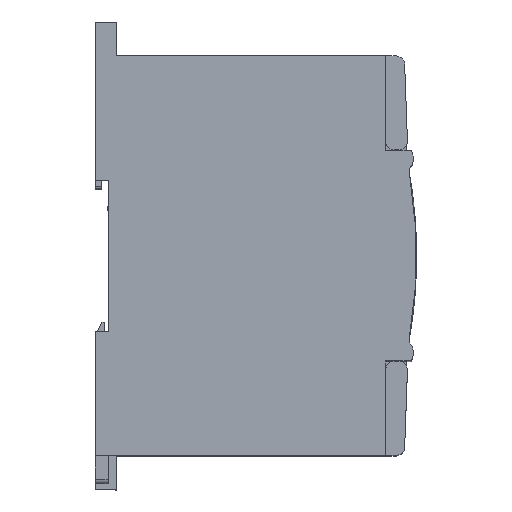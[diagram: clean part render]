
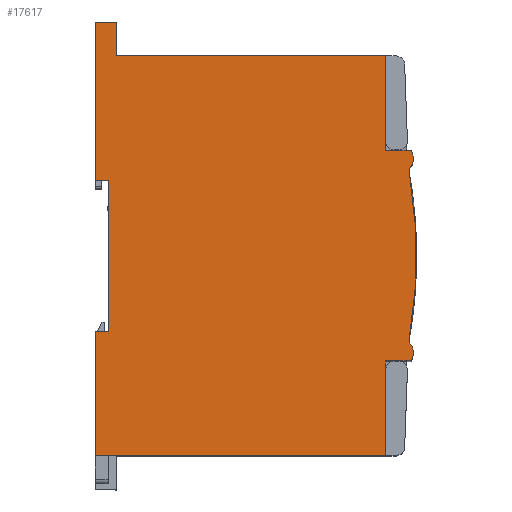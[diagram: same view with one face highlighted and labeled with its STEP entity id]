
A CAD part, top view. The second image highlights one B-rep face of the part: STEP entity #17617.
In plain terms, the highlighted planar face has unit normal (0, 0, 1) as drawn and (-1, 0, 0) by its records, which use the part's own axes.
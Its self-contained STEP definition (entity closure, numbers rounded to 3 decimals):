
#1811 = CARTESIAN_POINT ( 'NONE',  ( 0., 22.2, -1.268 ) ) ;
#2194 = ORIENTED_EDGE ( 'NONE', *, *, #73508, .F. ) ;
#4166 = DIRECTION ( 'NONE',  ( 0., 0., -1. ) ) ;
#4867 = CARTESIAN_POINT ( 'NONE',  ( 0., 71.8, -7.268 ) ) ;
#4956 = CARTESIAN_POINT ( 'NONE',  ( 0., 94., -7.268 ) ) ;
#5003 = EDGE_CURVE ( 'NONE', #57239, #47417, #23582, .T. ) ;
#5285 = CARTESIAN_POINT ( 'NONE',  ( 0., 94., -70.6 ) ) ;
#5921 = AXIS2_PLACEMENT_3D ( 'NONE', #69042, #29101, #75750 ) ;
#6233 = CARTESIAN_POINT ( 'NONE',  ( 0., 64.75, -72.4 ) ) ;
#6377 = ORIENTED_EDGE ( 'NONE', *, *, #79755, .F. ) ;
#6775 = VECTOR ( 'NONE', #39055, 1000. ) ;
#6783 = VECTOR ( 'NONE', #24551, 1000. ) ;
#7563 = CARTESIAN_POINT ( 'NONE',  ( 0., 47., -112.688 ) ) ;
#8536 = DIRECTION ( 'NONE',  ( 0., 0., -1. ) ) ;
#8893 = LINE ( 'NONE', #78508, #6783 ) ;
#8986 = LINE ( 'NONE', #41950, #24650 ) ;
#9185 = ORIENTED_EDGE ( 'NONE', *, *, #79996, .F. ) ;
#9543 = CARTESIAN_POINT ( 'NONE',  ( 0., 26.494, -1.694 ) ) ;
#10987 = DIRECTION ( 'NONE',  ( 0., 1., 0. ) ) ;
#11070 = VECTOR ( 'NONE', #8536, 1000. ) ;
#11338 = LINE ( 'NONE', #25060, #55227 ) ;
#12069 = ORIENTED_EDGE ( 'NONE', *, *, #59833, .T. ) ;
#12520 = LINE ( 'NONE', #36776, #48037 ) ;
#12592 = VECTOR ( 'NONE', #77888, 1000. ) ;
#13143 = ORIENTED_EDGE ( 'NONE', *, *, #22532, .F. ) ;
#13792 = ORIENTED_EDGE ( 'NONE', *, *, #68645, .F. ) ;
#14229 = VERTEX_POINT ( 'NONE', #16382 ) ;
#14280 = DIRECTION ( 'NONE',  ( 0., 0., -1. ) ) ;
#14565 = VERTEX_POINT ( 'NONE', #46641 ) ;
#14815 = CARTESIAN_POINT ( 'NONE',  ( 0., 102., -75.6 ) ) ;
#15282 = LINE ( 'NONE', #1811, #11070 ) ;
#16382 = CARTESIAN_POINT ( 'NONE',  ( 0., 29.25, -72.4 ) ) ;
#16511 = VECTOR ( 'NONE', #59135, 1000. ) ;
#16958 = VECTOR ( 'NONE', #82545, 1000. ) ;
#17232 = VERTEX_POINT ( 'NONE', #25882 ) ;
#17617 = ADVANCED_FACE ( 'NONE', ( #36982 ), #84148, .F. ) ;
#18154 = EDGE_CURVE ( 'NONE', #14229, #24961, #64995, .T. ) ;
#20250 = VECTOR ( 'NONE', #84693, 1000. ) ;
#20618 = AXIS2_PLACEMENT_3D ( 'NONE', #27303, #73983, #34057 ) ;
#20668 = CARTESIAN_POINT ( 'NONE',  ( 0., 64.75, -75.6 ) ) ;
#21897 = EDGE_CURVE ( 'NONE', #24961, #58553, #55754, .T. ) ;
#22278 = AXIS2_PLACEMENT_3D ( 'NONE', #7563, #54257, #14280 ) ;
#22460 = CARTESIAN_POINT ( 'NONE',  ( 0., 0., -75.6 ) ) ;
#22532 = EDGE_CURVE ( 'NONE', #47417, #33026, #77465, .T. ) ;
#22660 = ORIENTED_EDGE ( 'NONE', *, *, #71718, .F. ) ;
#23582 = LINE ( 'NONE', #4956, #39230 ) ;
#24551 = DIRECTION ( 'NONE',  ( 0., 1., 0. ) ) ;
#24650 = VECTOR ( 'NONE', #48620, 1000. ) ;
#24961 = VERTEX_POINT ( 'NONE', #6233 ) ;
#25060 = CARTESIAN_POINT ( 'NONE',  ( 0., 29.25, -75.6 ) ) ;
#25652 = CARTESIAN_POINT ( 'NONE',  ( 0., 69.955, -1.724 ) ) ;
#25882 = CARTESIAN_POINT ( 'NONE',  ( 0., 22.2, -7.268 ) ) ;
#27303 = CARTESIAN_POINT ( 'NONE',  ( 0., 69.935, -4.323 ) ) ;
#28431 = ORIENTED_EDGE ( 'NONE', *, *, #59474, .F. ) ;
#28878 = DIRECTION ( 'NONE',  ( 0., 1., 0. ) ) ;
#29101 = DIRECTION ( 'NONE',  ( 1., 0., 0. ) ) ;
#29395 = VECTOR ( 'NONE', #28878, 1000. ) ;
#30454 = DIRECTION ( 'NONE',  ( 1., 0., 0. ) ) ;
#33026 = VERTEX_POINT ( 'NONE', #85106 ) ;
#33297 = VERTEX_POINT ( 'NONE', #40435 ) ;
#34057 = DIRECTION ( 'NONE',  ( 0., 0., -1. ) ) ;
#34274 = LINE ( 'NONE', #45673, #16511 ) ;
#34391 = CARTESIAN_POINT ( 'NONE',  ( 0., 22.2, -1.268 ) ) ;
#36127 = VERTEX_POINT ( 'NONE', #34391 ) ;
#36776 = CARTESIAN_POINT ( 'NONE',  ( 0., 29.25, -75.6 ) ) ;
#36970 = EDGE_CURVE ( 'NONE', #14565, #71909, #68827, .T. ) ;
#36982 = FACE_OUTER_BOUND ( 'NONE', #38170, .T. ) ;
#37006 = VERTEX_POINT ( 'NONE', #5285 ) ;
#38120 = CARTESIAN_POINT ( 'NONE',  ( 0., 94., -7.268 ) ) ;
#38170 = EDGE_LOOP ( 'NONE', ( #22660, #44053, #60861, #28431, #6377, #79040, #52372, #39604, #55103, #12069, #9185, #45532, #2194, #13143, #39271, #13792, #65929, #65991 ) ) ;
#39055 = DIRECTION ( 'NONE',  ( 0., 1., -0.008 ) ) ;
#39230 = VECTOR ( 'NONE', #71484, 1000. ) ;
#39271 = ORIENTED_EDGE ( 'NONE', *, *, #5003, .F. ) ;
#39581 = CARTESIAN_POINT ( 'NONE',  ( 0., 66.487, -1.698 ) ) ;
#39604 = ORIENTED_EDGE ( 'NONE', *, *, #75783, .F. ) ;
#40435 = CARTESIAN_POINT ( 'NONE',  ( 0., 67.494, -1.705 ) ) ;
#41057 = EDGE_CURVE ( 'NONE', #80572, #33297, #60058, .T. ) ;
#41316 = EDGE_CURVE ( 'NONE', #45408, #36127, #76140, .T. ) ;
#41950 = CARTESIAN_POINT ( 'NONE',  ( 0., 102., -70.6 ) ) ;
#44053 = ORIENTED_EDGE ( 'NONE', *, *, #21897, .F. ) ;
#45254 = CARTESIAN_POINT ( 'NONE',  ( 0., 0., -75.6 ) ) ;
#45272 = VERTEX_POINT ( 'NONE', #14815 ) ;
#45408 = VERTEX_POINT ( 'NONE', #9543 ) ;
#45532 = ORIENTED_EDGE ( 'NONE', *, *, #41057, .T. ) ;
#45673 = CARTESIAN_POINT ( 'NONE',  ( 0., 69.935, -4.325 ) ) ;
#46024 = LINE ( 'NONE', #70880, #12592 ) ;
#46641 = CARTESIAN_POINT ( 'NONE',  ( 0., 0., -7.268 ) ) ;
#47417 = VERTEX_POINT ( 'NONE', #4867 ) ;
#48037 = VECTOR ( 'NONE', #83447, 1000. ) ;
#48620 = DIRECTION ( 'NONE',  ( 0., 0., -1. ) ) ;
#49242 = VERTEX_POINT ( 'NONE', #56242 ) ;
#49574 = VERTEX_POINT ( 'NONE', #80143 ) ;
#50006 = CARTESIAN_POINT ( 'NONE',  ( 0., 71.8, -75.6 ) ) ;
#50999 = CARTESIAN_POINT ( 'NONE',  ( 0., 27.268, -1.741 ) ) ;
#51083 = VECTOR ( 'NONE', #85251, 1000. ) ;
#52372 = ORIENTED_EDGE ( 'NONE', *, *, #66497, .T. ) ;
#54208 = EDGE_CURVE ( 'NONE', #49574, #45272, #8986, .T. ) ;
#54257 = DIRECTION ( 'NONE',  ( 1., 0., 0. ) ) ;
#55103 = ORIENTED_EDGE ( 'NONE', *, *, #41316, .F. ) ;
#55227 = VECTOR ( 'NONE', #72298, 1000. ) ;
#55754 = LINE ( 'NONE', #70977, #20250 ) ;
#56242 = CARTESIAN_POINT ( 'NONE',  ( 0., 29.25, -75.6 ) ) ;
#56245 = EDGE_CURVE ( 'NONE', #37006, #49574, #85857, .T. ) ;
#56390 = VERTEX_POINT ( 'NONE', #50999 ) ;
#57239 = VERTEX_POINT ( 'NONE', #38120 ) ;
#57434 = CIRCLE ( 'NONE', #20618, 3.579 ) ;
#58553 = VERTEX_POINT ( 'NONE', #20668 ) ;
#59135 = DIRECTION ( 'NONE',  ( 0., 0.998, -0.06 ) ) ;
#59474 = EDGE_CURVE ( 'NONE', #49242, #14229, #11338, .T. ) ;
#59750 = VECTOR ( 'NONE', #76550, 1000. ) ;
#59833 = EDGE_CURVE ( 'NONE', #45408, #56390, #34274, .T. ) ;
#60058 = LINE ( 'NONE', #25652, #6775 ) ;
#60861 = ORIENTED_EDGE ( 'NONE', *, *, #18154, .F. ) ;
#62097 = CARTESIAN_POINT ( 'NONE',  ( 0., 0., -7.268 ) ) ;
#64995 = LINE ( 'NONE', #71088, #78568 ) ;
#65929 = ORIENTED_EDGE ( 'NONE', *, *, #56245, .T. ) ;
#65991 = ORIENTED_EDGE ( 'NONE', *, *, #54208, .T. ) ;
#66497 = EDGE_CURVE ( 'NONE', #14565, #17232, #66995, .T. ) ;
#66995 = LINE ( 'NONE', #62097, #29395 ) ;
#68645 = EDGE_CURVE ( 'NONE', #37006, #57239, #46024, .T. ) ;
#68827 = LINE ( 'NONE', #45254, #51083 ) ;
#69042 = CARTESIAN_POINT ( 'NONE',  ( 0., 24.065, -4.323 ) ) ;
#69094 = CARTESIAN_POINT ( 'NONE',  ( 0., 94., -70.6 ) ) ;
#70880 = CARTESIAN_POINT ( 'NONE',  ( 0., 94., -7.268 ) ) ;
#70977 = CARTESIAN_POINT ( 'NONE',  ( 0., 64.75, -72.4 ) ) ;
#71088 = CARTESIAN_POINT ( 'NONE',  ( 0., 0., -72.4 ) ) ;
#71484 = DIRECTION ( 'NONE',  ( 0., -1., 0. ) ) ;
#71718 = EDGE_CURVE ( 'NONE', #58553, #45272, #8893, .T. ) ;
#71909 = VERTEX_POINT ( 'NONE', #22460 ) ;
#72298 = DIRECTION ( 'NONE',  ( 0., 0., 1. ) ) ;
#73508 = EDGE_CURVE ( 'NONE', #33026, #33297, #57434, .T. ) ;
#73983 = DIRECTION ( 'NONE',  ( 1., 0., 0. ) ) ;
#75750 = DIRECTION ( 'NONE',  ( 0., 0., -1. ) ) ;
#75783 = EDGE_CURVE ( 'NONE', #36127, #17232, #15282, .T. ) ;
#76140 = CIRCLE ( 'NONE', #5921, 3.579 ) ;
#76550 = DIRECTION ( 'NONE',  ( 0., 0., 1. ) ) ;
#77421 = CARTESIAN_POINT ( 'NONE',  ( 0., 69.935, -4.323 ) ) ;
#77465 = LINE ( 'NONE', #50006, #59750 ) ;
#77888 = DIRECTION ( 'NONE',  ( 0., 0., 1. ) ) ;
#78508 = CARTESIAN_POINT ( 'NONE',  ( 0., 22.2, -75.6 ) ) ;
#78568 = VECTOR ( 'NONE', #10987, 1000. ) ;
#79040 = ORIENTED_EDGE ( 'NONE', *, *, #36970, .F. ) ;
#79755 = EDGE_CURVE ( 'NONE', #71909, #49242, #12520, .T. ) ;
#79996 = EDGE_CURVE ( 'NONE', #80572, #56390, #80370, .T. ) ;
#80143 = CARTESIAN_POINT ( 'NONE',  ( 0., 102., -70.6 ) ) ;
#80370 = CIRCLE ( 'NONE', #22278, 112.688 ) ;
#80572 = VERTEX_POINT ( 'NONE', #39581 ) ;
#82545 = DIRECTION ( 'NONE',  ( 0., 1., 0. ) ) ;
#83447 = DIRECTION ( 'NONE',  ( 0., 1., 0. ) ) ;
#83837 = AXIS2_PLACEMENT_3D ( 'NONE', #77421, #30454, #4166 ) ;
#84148 = PLANE ( 'NONE',  #83837 ) ;
#84693 = DIRECTION ( 'NONE',  ( 0., 0., -1. ) ) ;
#85106 = CARTESIAN_POINT ( 'NONE',  ( 0., 71.8, -1.268 ) ) ;
#85251 = DIRECTION ( 'NONE',  ( 0., 0., -1. ) ) ;
#85857 = LINE ( 'NONE', #69094, #16958 ) ;
